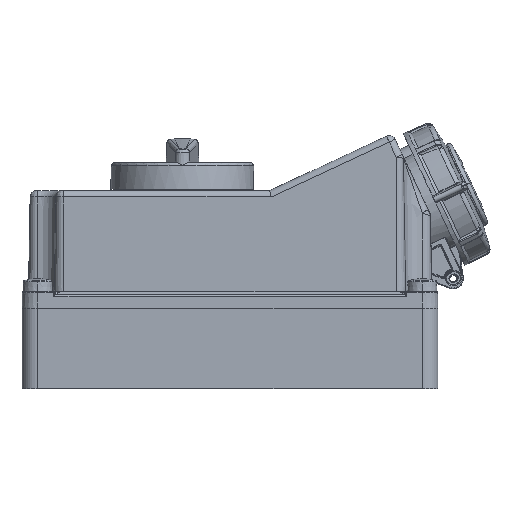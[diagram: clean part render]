
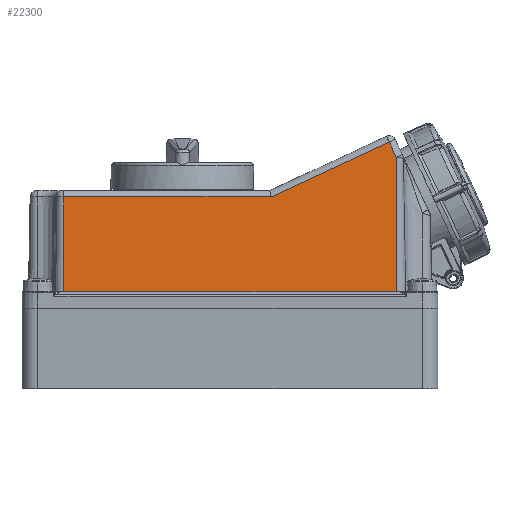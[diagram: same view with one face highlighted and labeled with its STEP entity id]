
A CAD part, left-side view. The second image highlights one B-rep face of the part: STEP entity #22300.
In plain terms, the highlighted planar face has unit normal (-1, 0, 0.018).
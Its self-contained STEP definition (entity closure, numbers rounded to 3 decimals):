
#4943=CARTESIAN_POINT('',(-54.231,-90.,
81.725));
#4963=DIRECTION('',(0.017,0.,1.));
#4964=VECTOR('',#4963,72.736);
#4965=CARTESIAN_POINT('',(-55.5,-90.,9.));
#4966=LINE('1231',#4965,#4964);
#4967=DIRECTION('',(0.,1.,0.));
#4968=VECTOR('',#4967,180.);
#4969=CARTESIAN_POINT('',(-55.5,-90.,9.));
#4970=LINE('802',#4969,#4968);
#4971=DIRECTION('',(-0.017,0.,-1.));
#4972=VECTOR('',#4971,51.219);
#4973=CARTESIAN_POINT('',(-54.606,90.,60.211));
#4974=LINE('837',#4973,#4972);
#4975=DIRECTION('',(0.,1.,0.));
#4976=VECTOR('',#4975,112.311);
#4977=CARTESIAN_POINT('',(-54.606,-22.311,
60.211));
#4978=LINE('808',#4977,#4976);
#6216=DIRECTION('',(0.016,0.423,0.906));
#6217=VECTOR('',#6216,9.11);
#6218=CARTESIAN_POINT('',(-54.231,-90.,
81.725));
#6219=LINE('1225',#6218,#6217);
#6256=DIRECTION('',(-0.007,0.906,-0.423));
#6257=VECTOR('',#6256,70.441);
#6258=CARTESIAN_POINT('',(-54.086,-86.151,
89.98));
#6259=LINE('830',#6258,#6257);
#12041=CARTESIAN_POINT('',(-55.5,-90.,9.));
#12042=CARTESIAN_POINT('',(-55.5,90.,9.));
#12043=VERTEX_POINT('',#12041);
#12044=VERTEX_POINT('',#12042);
#12049=CARTESIAN_POINT('',(-54.606,-22.311,
60.211));
#12050=CARTESIAN_POINT('',(-54.606,90.,
60.211));
#12051=VERTEX_POINT('',#12049);
#12052=VERTEX_POINT('',#12050);
#12099=CARTESIAN_POINT('',(-54.086,-86.151,
89.98));
#12100=VERTEX_POINT('',#12099);
#12527=VERTEX_POINT('',#4943);
#22282=CARTESIAN_POINT('',(-55.5,-91.2,9.));
#22283=DIRECTION('',(1.,0.,-0.017));
#22284=DIRECTION('',(0.,1.,0.));
#22285=AXIS2_PLACEMENT_3D('',#22282,#22283,#22284);
#22286=PLANE('45',#22285);
#22288=ORIENTED_EDGE('808',*,*,#22287,.F.);
#22290=ORIENTED_EDGE('830',*,*,#22289,.F.);
#22292=ORIENTED_EDGE('1225',*,*,#22291,.F.);
#22293=ORIENTED_EDGE('1231',*,*,#22270,.F.);
#22295=ORIENTED_EDGE('802',*,*,#22294,.T.);
#22297=ORIENTED_EDGE('837',*,*,#22296,.F.);
#22298=EDGE_LOOP('45',(#22288,#22290,#22292,#22293,#22295,#22297));
#22299=FACE_OUTER_BOUND('45',#22298,.F.);
#22270=EDGE_CURVE('1231',#12043,#12527,#4966,.T.);
#22287=EDGE_CURVE('808',#12051,#12052,#4978,.T.);
#22289=EDGE_CURVE('830',#12100,#12051,#6259,.T.);
#22291=EDGE_CURVE('1225',#12527,#12100,#6219,.T.);
#22294=EDGE_CURVE('802',#12043,#12044,#4970,.T.);
#22296=EDGE_CURVE('837',#12052,#12044,#4974,.T.);
#22300=ADVANCED_FACE('45',(#22299),#22286,.F.);
